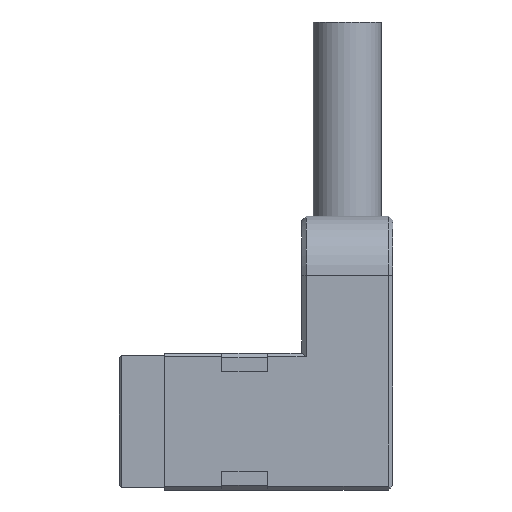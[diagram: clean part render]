
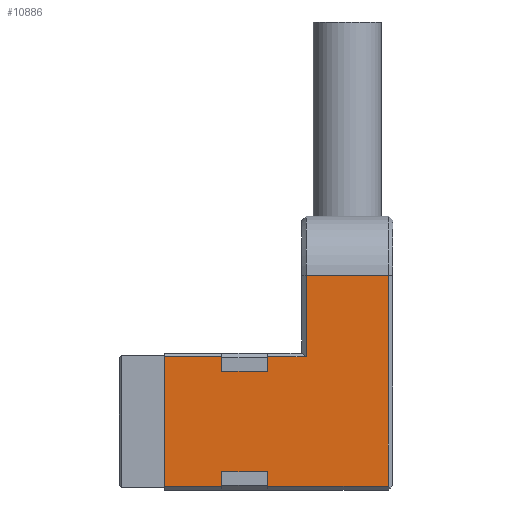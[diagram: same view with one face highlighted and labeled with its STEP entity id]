
A CAD part, left-side view. The second image highlights one B-rep face of the part: STEP entity #10886.
In plain terms, the highlighted planar face has unit normal (-1, 0, 0).
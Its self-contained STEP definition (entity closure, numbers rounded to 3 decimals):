
#45 = CARTESIAN_POINT ( 'NONE',  ( -4.065, 5.829, 13.27 ) ) ;
#174 = CARTESIAN_POINT ( 'NONE',  ( -4.065, 5.829, 13.9 ) ) ;
#188 = DIRECTION ( 'NONE',  ( 0., 0., -1. ) ) ;
#194 = ORIENTED_EDGE ( 'NONE', *, *, #9681, .F. ) ;
#270 = VECTOR ( 'NONE', #2521, 1000. ) ;
#341 = ORIENTED_EDGE ( 'NONE', *, *, #10295, .F. ) ;
#393 = LINE ( 'NONE', #3869, #10478 ) ;
#448 = EDGE_CURVE ( 'NONE', #1095, #852, #4206, .T. ) ;
#451 = VECTOR ( 'NONE', #2988, 1000. ) ;
#547 = VECTOR ( 'NONE', #11220, 1000. ) ;
#725 = CARTESIAN_POINT ( 'NONE',  ( -4.065, 4.129, 13.9 ) ) ;
#809 = VECTOR ( 'NONE', #10489, 1000. ) ;
#816 = CARTESIAN_POINT ( 'NONE',  ( -4.065, 5.829, 14.07 ) ) ;
#852 = VERTEX_POINT ( 'NONE', #1241 ) ;
#895 = ORIENTED_EDGE ( 'NONE', *, *, #7697, .T. ) ;
#896 = VECTOR ( 'NONE', #9631, 1000. ) ;
#1005 = CARTESIAN_POINT ( 'NONE',  ( -4.065, 10.329, 8.24 ) ) ;
#1095 = VERTEX_POINT ( 'NONE', #1005 ) ;
#1137 = DIRECTION ( 'NONE',  ( 0., -1., 0. ) ) ;
#1241 = CARTESIAN_POINT ( 'NONE',  ( -4.065, 7.829, 8.24 ) ) ;
#1299 = VERTEX_POINT ( 'NONE', #2743 ) ;
#1454 = ORIENTED_EDGE ( 'NONE', *, *, #5051, .T. ) ;
#1468 = CARTESIAN_POINT ( 'NONE',  ( -4.065, 5.829, 13.9 ) ) ;
#1478 = CARTESIAN_POINT ( 'NONE',  ( -4.065, 5.829, 8.87 ) ) ;
#1530 = DIRECTION ( 'NONE',  ( 0., 1., 0. ) ) ;
#1727 = ORIENTED_EDGE ( 'NONE', *, *, #10265, .F. ) ;
#1803 = ORIENTED_EDGE ( 'NONE', *, *, #3133, .T. ) ;
#1894 = VECTOR ( 'NONE', #10869, 1000. ) ;
#1956 = PLANE ( 'NONE',  #3713 ) ;
#2021 = VERTEX_POINT ( 'NONE', #8381 ) ;
#2026 = VERTEX_POINT ( 'NONE', #3924 ) ;
#2047 = DIRECTION ( 'NONE',  ( 0., 1., 0. ) ) ;
#2285 = ORIENTED_EDGE ( 'NONE', *, *, #7499, .F. ) ;
#2516 = LINE ( 'NONE', #9574, #809 ) ;
#2521 = DIRECTION ( 'NONE',  ( 0., 0., -1. ) ) ;
#2582 = FACE_OUTER_BOUND ( 'NONE', #5901, .T. ) ;
#2743 = CARTESIAN_POINT ( 'NONE',  ( -4.065, 5.829, 8.87 ) ) ;
#2840 = VECTOR ( 'NONE', #1137, 1000. ) ;
#2893 = VECTOR ( 'NONE', #7463, 1000. ) ;
#2988 = DIRECTION ( 'NONE',  ( 0., 0., -1. ) ) ;
#3072 = LINE ( 'NONE', #1478, #2893 ) ;
#3133 = EDGE_CURVE ( 'NONE', #6010, #10294, #4553, .T. ) ;
#3549 = DIRECTION ( 'NONE',  ( 1., 0., 0. ) ) ;
#3566 = LINE ( 'NONE', #7742, #547 ) ;
#3713 = AXIS2_PLACEMENT_3D ( 'NONE', #816, #3549, #188 ) ;
#3735 = VECTOR ( 'NONE', #10418, 1000. ) ;
#3869 = CARTESIAN_POINT ( 'NONE',  ( -4.065, 5.829, 13.27 ) ) ;
#3924 = CARTESIAN_POINT ( 'NONE',  ( -4.065, 0.529, 17.47 ) ) ;
#4206 = LINE ( 'NONE', #7641, #8584 ) ;
#4252 = EDGE_CURVE ( 'NONE', #7722, #9236, #4391, .T. ) ;
#4391 = LINE ( 'NONE', #174, #896 ) ;
#4534 = CARTESIAN_POINT ( 'NONE',  ( -4.065, 4.129, 17.47 ) ) ;
#4553 = LINE ( 'NONE', #9904, #2840 ) ;
#4639 = VECTOR ( 'NONE', #5229, 1000. ) ;
#4677 = CARTESIAN_POINT ( 'NONE',  ( -4.065, 5.829, 14.07 ) ) ;
#4696 = CARTESIAN_POINT ( 'NONE',  ( -4.065, 0.529, 17.47 ) ) ;
#4818 = VERTEX_POINT ( 'NONE', #9043 ) ;
#5038 = VERTEX_POINT ( 'NONE', #9439 ) ;
#5051 = EDGE_CURVE ( 'NONE', #5210, #7722, #3566, .T. ) ;
#5210 = VERTEX_POINT ( 'NONE', #4534 ) ;
#5229 = DIRECTION ( 'NONE',  ( 0., 1., 0. ) ) ;
#5514 = ORIENTED_EDGE ( 'NONE', *, *, #448, .T. ) ;
#5901 = EDGE_LOOP ( 'NONE', ( #10396, #5514, #1727, #341, #2285, #1803, #8232, #895, #1454, #10732, #7094, #10115, #194, #9303 ) ) ;
#5993 = LINE ( 'NONE', #11251, #270 ) ;
#6010 = VERTEX_POINT ( 'NONE', #6089 ) ;
#6075 = EDGE_CURVE ( 'NONE', #6310, #7258, #393, .T. ) ;
#6089 = CARTESIAN_POINT ( 'NONE',  ( -4.065, 5.829, 8.24 ) ) ;
#6209 = CARTESIAN_POINT ( 'NONE',  ( -4.065, 7.829, 8.57 ) ) ;
#6258 = CARTESIAN_POINT ( 'NONE',  ( -4.065, 0.529, 8.24 ) ) ;
#6310 = VERTEX_POINT ( 'NONE', #7966 ) ;
#6381 = LINE ( 'NONE', #9842, #10467 ) ;
#6638 = VECTOR ( 'NONE', #1530, 1000. ) ;
#7094 = ORIENTED_EDGE ( 'NONE', *, *, #11009, .T. ) ;
#7258 = VERTEX_POINT ( 'NONE', #45 ) ;
#7350 = DIRECTION ( 'NONE',  ( 0., -1., 0. ) ) ;
#7463 = DIRECTION ( 'NONE',  ( 0., 0., 1. ) ) ;
#7499 = EDGE_CURVE ( 'NONE', #6010, #1299, #3072, .T. ) ;
#7641 = CARTESIAN_POINT ( 'NONE',  ( -4.065, 7.829, 8.24 ) ) ;
#7692 = CARTESIAN_POINT ( 'NONE',  ( -4.065, 4.329, 17.47 ) ) ;
#7697 = EDGE_CURVE ( 'NONE', #2026, #5210, #9492, .T. ) ;
#7722 = VERTEX_POINT ( 'NONE', #725 ) ;
#7742 = CARTESIAN_POINT ( 'NONE',  ( -4.065, 4.129, 14.07 ) ) ;
#7926 = LINE ( 'NONE', #10596, #4639 ) ;
#7966 = CARTESIAN_POINT ( 'NONE',  ( -4.065, 7.829, 13.27 ) ) ;
#7979 = LINE ( 'NONE', #6209, #3735 ) ;
#8060 = LINE ( 'NONE', #4677, #451 ) ;
#8232 = ORIENTED_EDGE ( 'NONE', *, *, #10834, .T. ) ;
#8381 = CARTESIAN_POINT ( 'NONE',  ( -4.065, 10.329, 13.9 ) ) ;
#8584 = VECTOR ( 'NONE', #8600, 1000. ) ;
#8600 = DIRECTION ( 'NONE',  ( 0., -1., 0. ) ) ;
#9043 = CARTESIAN_POINT ( 'NONE',  ( -4.065, 7.829, 8.87 ) ) ;
#9236 = VERTEX_POINT ( 'NONE', #1468 ) ;
#9303 = ORIENTED_EDGE ( 'NONE', *, *, #10539, .T. ) ;
#9439 = CARTESIAN_POINT ( 'NONE',  ( -4.065, 7.829, 13.9 ) ) ;
#9492 = LINE ( 'NONE', #7692, #6638 ) ;
#9574 = CARTESIAN_POINT ( 'NONE',  ( -4.065, 10.329, 14.07 ) ) ;
#9631 = DIRECTION ( 'NONE',  ( 0., 1., 0. ) ) ;
#9681 = EDGE_CURVE ( 'NONE', #5038, #6310, #5993, .T. ) ;
#9824 = LINE ( 'NONE', #4696, #1894 ) ;
#9842 = CARTESIAN_POINT ( 'NONE',  ( -4.065, 12.129, 13.9 ) ) ;
#9904 = CARTESIAN_POINT ( 'NONE',  ( -4.065, 0.329, 8.24 ) ) ;
#10115 = ORIENTED_EDGE ( 'NONE', *, *, #6075, .F. ) ;
#10265 = EDGE_CURVE ( 'NONE', #4818, #852, #7979, .T. ) ;
#10294 = VERTEX_POINT ( 'NONE', #6258 ) ;
#10295 = EDGE_CURVE ( 'NONE', #1299, #4818, #7926, .T. ) ;
#10396 = ORIENTED_EDGE ( 'NONE', *, *, #11264, .F. ) ;
#10418 = DIRECTION ( 'NONE',  ( 0., 0., -1. ) ) ;
#10467 = VECTOR ( 'NONE', #2047, 1000. ) ;
#10478 = VECTOR ( 'NONE', #7350, 1000. ) ;
#10489 = DIRECTION ( 'NONE',  ( 0., 0., 1. ) ) ;
#10539 = EDGE_CURVE ( 'NONE', #5038, #2021, #6381, .T. ) ;
#10596 = CARTESIAN_POINT ( 'NONE',  ( -4.065, 7.829, 8.87 ) ) ;
#10732 = ORIENTED_EDGE ( 'NONE', *, *, #4252, .T. ) ;
#10834 = EDGE_CURVE ( 'NONE', #10294, #2026, #9824, .T. ) ;
#10869 = DIRECTION ( 'NONE',  ( 0., 0., 1. ) ) ;
#10886 = ADVANCED_FACE ( 'NONE', ( #2582 ), #1956, .F. ) ;
#11009 = EDGE_CURVE ( 'NONE', #9236, #7258, #8060, .T. ) ;
#11220 = DIRECTION ( 'NONE',  ( 0., 0., -1. ) ) ;
#11251 = CARTESIAN_POINT ( 'NONE',  ( -4.065, 7.829, 13.27 ) ) ;
#11264 = EDGE_CURVE ( 'NONE', #1095, #2021, #2516, .T. ) ;
